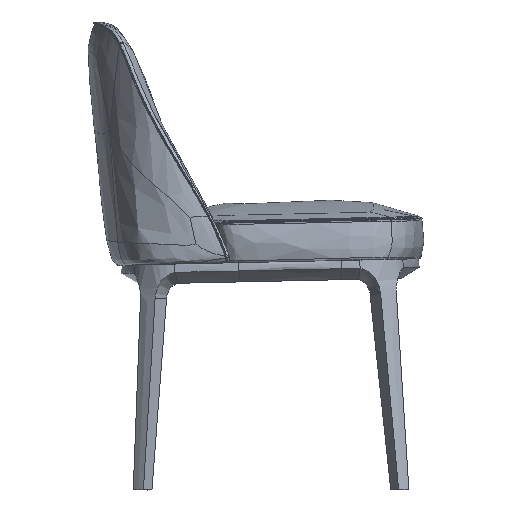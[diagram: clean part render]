
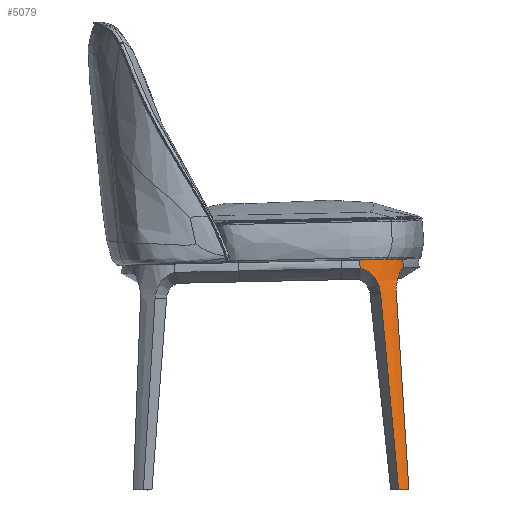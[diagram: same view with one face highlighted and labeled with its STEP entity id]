
A CAD part, left-side view. The second image highlights one B-rep face of the part: STEP entity #5079.
In plain terms, the highlighted free-form (B-spline) face has degree [3, 3] with [10, 4] control points.
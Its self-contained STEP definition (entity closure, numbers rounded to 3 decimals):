
#257=B_SPLINE_SURFACE_WITH_KNOTS('',3,3,((#6619,#6620,#6621,#6622),(#6623,
#6624,#6625,#6626),(#6627,#6628,#6629,#6630),(#6631,#6632,#6633,#6634),
(#6635,#6636,#6637,#6638),(#6639,#6640,#6641,#6642),(#6643,#6644,#6645,
#6646),(#6647,#6648,#6649,#6650),(#6651,#6652,#6653,#6654),(#6655,#6656,
#6657,#6658)),.UNSPECIFIED.,.F.,.F.,.F.,(4,1,1,1,1,1,1,4),(4,4),(0.,0.143,
0.286,0.429,0.571,0.714,
0.857,1.),(0.,0.998),.UNSPECIFIED.);
#566=FACE_OUTER_BOUND('',#914,.T.);
#914=EDGE_LOOP('',(#3382,#3383,#3384,#3385,#3386,#3387,#3388,#3389));
#1288=LINE('',#6676,#1365);
#1289=LINE('',#6689,#1366);
#1365=VECTOR('',#5748,421.769);
#1366=VECTOR('',#5749,421.769);
#1430=B_SPLINE_CURVE_WITH_KNOTS('',3,(#6382,#6383,#6384,#6385,#6386,#6387),
 .UNSPECIFIED.,.F.,.F.,(4,2,4),(-8.645,-6.485,-6.248),
 .UNSPECIFIED.);
#1443=B_SPLINE_CURVE_WITH_KNOTS('',3,(#6660,#6661,#6662,#6663),
 .UNSPECIFIED.,.F.,.F.,(4,4),(-34.975,-0.07),
 .UNSPECIFIED.);
#1444=B_SPLINE_CURVE_WITH_KNOTS('',3,(#6665,#6666,#6667,#6668,#6669,#6670,
#6671,#6672,#6673,#6674),.UNSPECIFIED.,.F.,.F.,(4,2,2,2,4),(-6.429,
-4.809,-3.166,-1.477,0.),
 .UNSPECIFIED.);
#1445=B_SPLINE_CURVE_WITH_KNOTS('',3,(#6678,#6679,#6680,#6681,#6682,#6683,
#6684,#6685,#6686,#6687),.UNSPECIFIED.,.F.,.F.,(4,1,1,1,1,1,1,4),(0.,0.143,
0.286,0.429,0.571,0.714,
0.857,1.),.UNSPECIFIED.);
#1446=B_SPLINE_CURVE_WITH_KNOTS('',3,(#6691,#6692,#6693,#6694,#6695,#6696,
#6697,#6698,#6699,#6700),.UNSPECIFIED.,.F.,.F.,(4,2,2,2,4),(0.,2.16,
4.268,5.493,6.666),.UNSPECIFIED.);
#1447=B_SPLINE_CURVE_WITH_KNOTS('',3,(#6701,#6702,#6703,#6704),
 .UNSPECIFIED.,.F.,.F.,(4,4),(-35.288,-0.151),
 .UNSPECIFIED.);
#1986=VERTEX_POINT('',#6379);
#1987=VERTEX_POINT('',#6381);
#2010=VERTEX_POINT('',#6659);
#2011=VERTEX_POINT('',#6664);
#2012=VERTEX_POINT('',#6675);
#2013=VERTEX_POINT('',#6677);
#2014=VERTEX_POINT('',#6688);
#2015=VERTEX_POINT('',#6690);
#2495=EDGE_CURVE('',#1987,#1986,#1430,.F.);
#2523=EDGE_CURVE('',#2010,#1986,#1443,.T.);
#2524=EDGE_CURVE('',#2010,#2011,#1444,.T.);
#2525=EDGE_CURVE('',#2012,#2011,#1288,.T.);
#2526=EDGE_CURVE('',#2012,#2013,#1445,.T.);
#2527=EDGE_CURVE('',#2013,#2014,#1289,.T.);
#2528=EDGE_CURVE('',#2015,#2014,#1446,.T.);
#2529=EDGE_CURVE('',#1987,#2015,#1447,.T.);
#3382=ORIENTED_EDGE('',*,*,#2495,.T.);
#3383=ORIENTED_EDGE('',*,*,#2523,.F.);
#3384=ORIENTED_EDGE('',*,*,#2524,.T.);
#3385=ORIENTED_EDGE('',*,*,#2525,.F.);
#3386=ORIENTED_EDGE('',*,*,#2526,.T.);
#3387=ORIENTED_EDGE('',*,*,#2527,.T.);
#3388=ORIENTED_EDGE('',*,*,#2528,.F.);
#3389=ORIENTED_EDGE('',*,*,#2529,.F.);
#5079=ADVANCED_FACE('',(#566),#257,.T.);
#5748=DIRECTION('',(-0.025,-0.103,-0.994));
#5749=DIRECTION('',(-0.085,-0.029,-0.996));
#6379=CARTESIAN_POINT('',(-252.332,26.247,-384.528));
#6381=CARTESIAN_POINT('',(-267.324,44.826,-384.528));
#6382=CARTESIAN_POINT('Ctrl Pts',(-252.332,26.247,-384.528));
#6383=CARTESIAN_POINT('Ctrl Pts',(-257.347,31.376,-384.528));
#6384=CARTESIAN_POINT('Ctrl Pts',(-261.922,36.934,-384.528));
#6385=CARTESIAN_POINT('Ctrl Pts',(-266.45,43.515,-384.528));
#6386=CARTESIAN_POINT('Ctrl Pts',(-266.89,44.168,-384.528));
#6387=CARTESIAN_POINT('Ctrl Pts',(-267.324,44.826,-384.528));
#6619=CARTESIAN_POINT('Ctrl Pts',(-189.01,37.574,34.852));
#6620=CARTESIAN_POINT('Ctrl Pts',(-192.542,23.094,-104.709));
#6621=CARTESIAN_POINT('Ctrl Pts',(-196.075,8.615,-244.271));
#6622=CARTESIAN_POINT('Ctrl Pts',(-199.607,-5.865,-383.833));
#6623=CARTESIAN_POINT('Ctrl Pts',(-193.839,39.063,34.82));
#6624=CARTESIAN_POINT('Ctrl Pts',(-198.016,24.782,-104.746));
#6625=CARTESIAN_POINT('Ctrl Pts',(-202.194,10.501,-244.312));
#6626=CARTESIAN_POINT('Ctrl Pts',(-206.372,-3.78,-383.878));
#6627=CARTESIAN_POINT('Ctrl Pts',(-204.2,43.171,34.731));
#6628=CARTESIAN_POINT('Ctrl Pts',(-209.751,29.436,-104.847));
#6629=CARTESIAN_POINT('Ctrl Pts',(-215.301,15.7,-244.424));
#6630=CARTESIAN_POINT('Ctrl Pts',(-220.852,1.965,-384.002));
#6631=CARTESIAN_POINT('Ctrl Pts',(-219.656,53.233,34.513));
#6632=CARTESIAN_POINT('Ctrl Pts',(-227.243,40.817,-105.093));
#6633=CARTESIAN_POINT('Ctrl Pts',(-234.829,28.401,-244.699));
#6634=CARTESIAN_POINT('Ctrl Pts',(-242.416,15.985,-384.306));
#6635=CARTESIAN_POINT('Ctrl Pts',(-232.959,66.621,34.224));
#6636=CARTESIAN_POINT('Ctrl Pts',(-242.303,55.954,-105.421));
#6637=CARTESIAN_POINT('Ctrl Pts',(-251.647,45.286,-245.065));
#6638=CARTESIAN_POINT('Ctrl Pts',(-260.991,34.619,-384.709));
#6639=CARTESIAN_POINT('Ctrl Pts',(-242.724,81.755,33.896));
#6640=CARTESIAN_POINT('Ctrl Pts',(-253.373,73.07,-105.791));
#6641=CARTESIAN_POINT('Ctrl Pts',(-264.022,64.385,-245.478));
#6642=CARTESIAN_POINT('Ctrl Pts',(-274.671,55.7,-385.165));
#6643=CARTESIAN_POINT('Ctrl Pts',(-248.61,96.478,33.577));
#6644=CARTESIAN_POINT('Ctrl Pts',(-260.065,89.744,-106.152));
#6645=CARTESIAN_POINT('Ctrl Pts',(-271.519,83.01,-245.881));
#6646=CARTESIAN_POINT('Ctrl Pts',(-282.974,76.276,-385.611));
#6647=CARTESIAN_POINT('Ctrl Pts',(-251.303,108.611,33.315));
#6648=CARTESIAN_POINT('Ctrl Pts',(-263.141,103.524,-106.45));
#6649=CARTESIAN_POINT('Ctrl Pts',(-274.979,98.437,-246.215));
#6650=CARTESIAN_POINT('Ctrl Pts',(-286.817,93.35,-385.98));
#6651=CARTESIAN_POINT('Ctrl Pts',(-251.827,113.742,33.204));
#6652=CARTESIAN_POINT('Ctrl Pts',(-263.745,109.395,-106.577));
#6653=CARTESIAN_POINT('Ctrl Pts',(-275.664,105.048,-246.358));
#6654=CARTESIAN_POINT('Ctrl Pts',(-287.581,100.701,-386.139));
#6655=CARTESIAN_POINT('Ctrl Pts',(-251.969,115.321,33.169));
#6656=CARTESIAN_POINT('Ctrl Pts',(-263.909,111.224,-106.617));
#6657=CARTESIAN_POINT('Ctrl Pts',(-275.85,107.127,-246.403));
#6658=CARTESIAN_POINT('Ctrl Pts',(-287.79,103.03,-386.19));
#6659=CARTESIAN_POINT('',(-223.46,48.947,-27.748));
#6660=CARTESIAN_POINT('Ctrl Pts',(-223.46,48.947,-27.748));
#6661=CARTESIAN_POINT('Ctrl Pts',(-233.051,41.377,-144.436));
#6662=CARTESIAN_POINT('Ctrl Pts',(-243.073,33.505,-268.739));
#6663=CARTESIAN_POINT('Ctrl Pts',(-252.332,26.247,-384.528));
#6664=CARTESIAN_POINT('',(-189.396,36.019,19.843));
#6665=CARTESIAN_POINT('Ctrl Pts',(-223.46,48.947,-27.748));
#6666=CARTESIAN_POINT('Ctrl Pts',(-223.022,49.304,-22.337));
#6667=CARTESIAN_POINT('Ctrl Pts',(-221.975,49.131,-16.984));
#6668=CARTESIAN_POINT('Ctrl Pts',(-218.609,47.843,-6.655));
#6669=CARTESIAN_POINT('Ctrl Pts',(-216.288,46.724,-1.742));
#6670=CARTESIAN_POINT('Ctrl Pts',(-210.267,43.874,7.185));
#6671=CARTESIAN_POINT('Ctrl Pts',(-206.537,42.135,11.148));
#6672=CARTESIAN_POINT('Ctrl Pts',(-198.311,38.852,16.898));
#6673=CARTESIAN_POINT('Ctrl Pts',(-194.032,37.341,18.85));
#6674=CARTESIAN_POINT('Ctrl Pts',(-189.402,36.024,19.877));
#6675=CARTESIAN_POINT('',(-189.01,37.574,34.852));
#6676=CARTESIAN_POINT('',(-189.01,37.574,34.852));
#6677=CARTESIAN_POINT('',(-251.969,115.321,33.169));
#6678=CARTESIAN_POINT('Ctrl Pts',(-189.01,37.574,34.852));
#6679=CARTESIAN_POINT('Ctrl Pts',(-193.839,39.063,34.82));
#6680=CARTESIAN_POINT('Ctrl Pts',(-204.2,43.171,34.731));
#6681=CARTESIAN_POINT('Ctrl Pts',(-219.656,53.233,34.513));
#6682=CARTESIAN_POINT('Ctrl Pts',(-232.959,66.621,34.224));
#6683=CARTESIAN_POINT('Ctrl Pts',(-242.724,81.755,33.896));
#6684=CARTESIAN_POINT('Ctrl Pts',(-248.61,96.478,33.577));
#6685=CARTESIAN_POINT('Ctrl Pts',(-251.303,108.611,33.315));
#6686=CARTESIAN_POINT('Ctrl Pts',(-251.827,113.742,33.204));
#6687=CARTESIAN_POINT('Ctrl Pts',(-251.969,115.321,33.169));
#6688=CARTESIAN_POINT('',(-253.256,114.88,18.102));
#6689=CARTESIAN_POINT('',(-251.969,115.321,33.169));
#6690=CARTESIAN_POINT('',(-246.692,77.636,-28.369));
#6691=CARTESIAN_POINT('Ctrl Pts',(-246.692,77.636,-28.369));
#6692=CARTESIAN_POINT('Ctrl Pts',(-246.266,78.302,-21.212));
#6693=CARTESIAN_POINT('Ctrl Pts',(-246.535,80.193,-14.229));
#6694=CARTESIAN_POINT('Ctrl Pts',(-248.028,86.319,-1.539));
#6695=CARTESIAN_POINT('Ctrl Pts',(-249.175,90.382,3.928));
#6696=CARTESIAN_POINT('Ctrl Pts',(-250.912,98.063,10.768));
#6697=CARTESIAN_POINT('Ctrl Pts',(-251.542,101.191,12.928));
#6698=CARTESIAN_POINT('Ctrl Pts',(-252.585,107.832,16.253));
#6699=CARTESIAN_POINT('Ctrl Pts',(-252.999,111.283,17.435));
#6700=CARTESIAN_POINT('Ctrl Pts',(-253.256,114.88,18.102));
#6701=CARTESIAN_POINT('Ctrl Pts',(-267.324,44.826,-384.528));
#6702=CARTESIAN_POINT('Ctrl Pts',(-260.756,55.391,-268.914));
#6703=CARTESIAN_POINT('Ctrl Pts',(-253.613,66.791,-144.848));
#6704=CARTESIAN_POINT('Ctrl Pts',(-246.692,77.636,-28.369));
